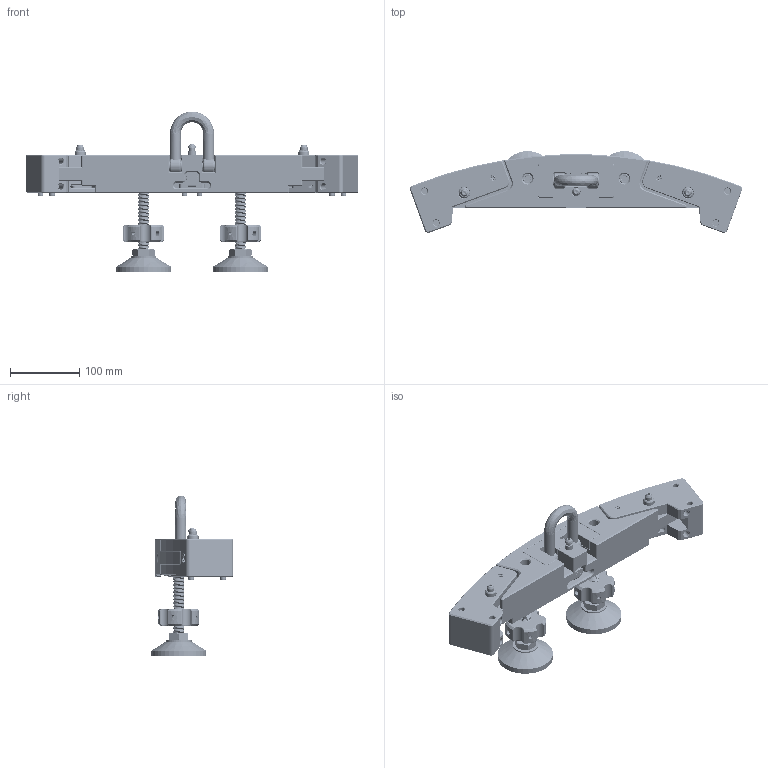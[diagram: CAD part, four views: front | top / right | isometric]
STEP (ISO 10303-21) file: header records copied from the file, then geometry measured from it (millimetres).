
FILE_DESCRIPTION (( 'STEP AP214' ), '1' );
FILE_NAME ('51-9us0000008-us-hanging-beams-04-12 -1.STEP', '2024-04-12T10:29:15', ( '' ), ( '' ), 'SwSTEP 2.0', 'SolidWorks 2016', '' );
FILE_SCHEMA (( 'AUTOMOTIVE_DESIGN' ));
Length unit declared in the file: millimetre
Products named in the file (37): CABINET-DINGWEI_7_1; D-XING-KOU-16_3_1; M3X12-CHENTOU-SHIZI_4_1; JIMI-M6-16_2_1; ADMI3774AEA4IC74_1_7_1_1_1; VHR-00_ASM_4_ASM_1_ASM_1_ASM; ADMI3774AEA4IC74_1_4_1_1_1; JIAOBEI_ASM_1_1_2_ASM_1_1_ASM; _-10001_5_1; M10-40_3_1; ADMI3774AEA4IC74_1_6_1_1_1; DIAOZHUANGKUAI_22_1; 0004_3_1; 51-9US0000008_ASM_1_ASM; ADMI3774AEA4IC74_1_1_4_1_1; JIAOBEI_2_1_2_1_1; ADMI3774AEA4IC74_1_9_1_1_1; _US00_ASM_2_ASM; VHR-SUOPIAN_ASM_1_ASM_1_ASM; ADMI3774AEA4IC74_1_8_1_1_1; ROE--0001_ASM_23_ASM_1_ASM; ROE-0001_118_7; _1000_14_1; M16-NUT_3_1_2_1_1; M6-20-LUOSHUAN_1; ADMI3774AEA4IC74_1_2_4_1_1; ANNIU-MAOZI_2_1_1; ADMI3774AEA4IC74_1_5_1_1_1; ADMI3774AEA4IC74_1_ASM_1_ASM_1__ASM; ADMI3774AEA4IC74_1_3_3_1_1; 0001_67_1; CHAOXIAO-1_7_1; 51-9us0000008-us-hanging-beams-04-12 -1; XUANZHUANKUAI_1_1_2_1_1; SUODINGWEIXIAO_12_1; M6-20-LUOSHUAN; M6-8-DW
Assembly tree (61 placements, depth 7):
  51-9us0000008-us-hanging-beams-04-12 -1
    51-9US0000008_ASM_1_ASM
      ROE--0001_ASM_23_ASM_1_ASM
        ROE-0001_118_7
        0001_67_1
        _-10001_5_1
        VHR-SUOPIAN_ASM_1_ASM_1_ASM
          VHR-00_ASM_4_ASM_1_ASM_1_ASM
            ADMI3774AEA4IC74_1_ASM_1_ASM_1__ASM
              ADMI3774AEA4IC74_1_1_4_1_1
              ADMI3774AEA4IC74_1_2_4_1_1
              ADMI3774AEA4IC74_1_3_3_1_1
              ADMI3774AEA4IC74_1_4_1_1_1
              ADMI3774AEA4IC74_1_5_1_1_1
              ADMI3774AEA4IC74_1_6_1_1_1
              ADMI3774AEA4IC74_1_7_1_1_1
              ADMI3774AEA4IC74_1_8_1_1_1
              ADMI3774AEA4IC74_1_9_1_1_1
            ANNIU-MAOZI_2_1_1
        0004_3_1  x2
        M3X12-CHENTOU-SHIZI_4_1  x6
        _1000_14_1  x4
        CABINET-DINGWEI_7_1  x2
        SUODINGWEIXIAO_12_1
        D-XING-KOU-16_3_1
        CHAOXIAO-1_7_1
        DIAOZHUANGKUAI_22_1
        M10-40_3_1  x4
        JIMI-M6-16_2_1  x4
      M6-20-LUOSHUAN_1  x3
    M6-20-LUOSHUAN  x2
    M6-8-DW  x6
    _US00_ASM_2_ASM  x2
      JIAOBEI_ASM_1_1_2_ASM_1_1_ASM
        JIAOBEI_2_1_2_1_1
        XUANZHUANKUAI_1_1_2_1_1
        M16-NUT_3_1_2_1_1
Bounding box: 480.17 x 118.42 x 232.75 mm (x, y, z)
Volume: 1728925.4 mm3; surface area: 376692.8 mm2
Topology: 54 solids, 56 shells, 5167 faces, 13662 edges, 8724 vertices
Faces by surface type: cylinder 2225, plane 1139, cone 932, bspline 871
Entity records: 222626 total; most frequent: CARTESIAN_POINT 130379, ORIENTED_EDGE 14744, DIRECTION 11504, EDGE_CURVE 7373, VERTEX_POINT 4675, AXIS2_PLACEMENT_3D 4330, EDGE_LOOP 3059, ADVANCED_FACE 2857
